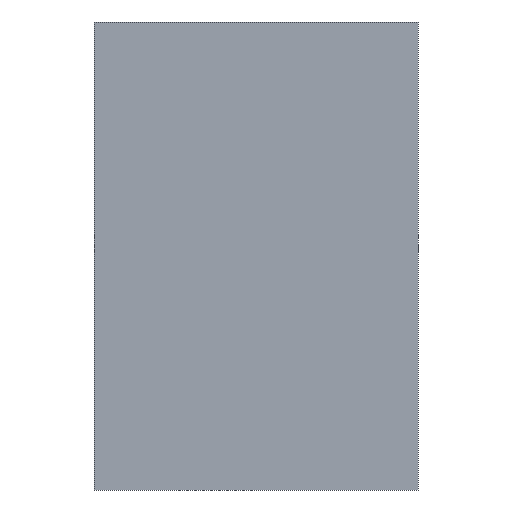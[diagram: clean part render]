
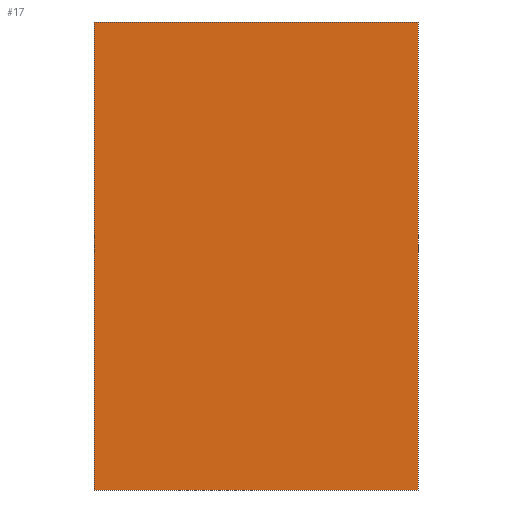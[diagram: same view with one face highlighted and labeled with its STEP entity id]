
A CAD part, left-side view. The second image highlights one B-rep face of the part: STEP entity #17.
In plain terms, the highlighted planar face has unit normal (-1, 0, 0).
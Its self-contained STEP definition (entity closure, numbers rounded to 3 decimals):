
#17 = ADVANCED_FACE('',(#18),#32,.F.);
#18 = FACE_BOUND('',#19,.F.);
#19 = EDGE_LOOP('',(#20,#55,#83,#111));
#20 = ORIENTED_EDGE('',*,*,#21,.F.);
#21 = EDGE_CURVE('',#22,#24,#26,.T.);
#22 = VERTEX_POINT('',#23);
#23 = CARTESIAN_POINT('',(2.,4.,-13.));
#24 = VERTEX_POINT('',#25);
#25 = CARTESIAN_POINT('',(2.,4.,13.));
#26 = SURFACE_CURVE('',#27,(#31,#43),.PCURVE_S1.);
#27 = LINE('',#28,#29);
#28 = CARTESIAN_POINT('',(2.,4.,-13.));
#29 = VECTOR('',#30,1.);
#30 = DIRECTION('',(0.,0.,1.));
#31 = PCURVE('',#32,#37);
#32 = PLANE('',#33);
#33 = AXIS2_PLACEMENT_3D('',#34,#35,#36);
#34 = CARTESIAN_POINT('',(2.,4.,-13.));
#35 = DIRECTION('',(1.,0.,0.));
#36 = DIRECTION('',(0.,0.,1.));
#37 = DEFINITIONAL_REPRESENTATION('',(#38),#42);
#38 = LINE('',#39,#40);
#39 = CARTESIAN_POINT('',(0.,0.));
#40 = VECTOR('',#41,1.);
#41 = DIRECTION('',(1.,0.));
#42 = ( GEOMETRIC_REPRESENTATION_CONTEXT(2) 
PARAMETRIC_REPRESENTATION_CONTEXT() REPRESENTATION_CONTEXT('2D SPACE',''
  ) );
#43 = PCURVE('',#44,#49);
#44 = PLANE('',#45);
#45 = AXIS2_PLACEMENT_3D('',#46,#47,#48);
#46 = CARTESIAN_POINT('',(2.,4.,-13.));
#47 = DIRECTION('',(0.,1.,0.));
#48 = DIRECTION('',(0.,0.,1.));
#49 = DEFINITIONAL_REPRESENTATION('',(#50),#54);
#50 = LINE('',#51,#52);
#51 = CARTESIAN_POINT('',(0.,0.));
#52 = VECTOR('',#53,1.);
#53 = DIRECTION('',(1.,0.));
#54 = ( GEOMETRIC_REPRESENTATION_CONTEXT(2) 
PARAMETRIC_REPRESENTATION_CONTEXT() REPRESENTATION_CONTEXT('2D SPACE',''
  ) );
#55 = ORIENTED_EDGE('',*,*,#56,.T.);
#56 = EDGE_CURVE('',#22,#57,#59,.T.);
#57 = VERTEX_POINT('',#58);
#58 = CARTESIAN_POINT('',(2.,22.,-13.));
#59 = SURFACE_CURVE('',#60,(#64,#71),.PCURVE_S1.);
#60 = LINE('',#61,#62);
#61 = CARTESIAN_POINT('',(2.,4.,-13.));
#62 = VECTOR('',#63,1.);
#63 = DIRECTION('',(0.,1.,0.));
#64 = PCURVE('',#32,#65);
#65 = DEFINITIONAL_REPRESENTATION('',(#66),#70);
#66 = LINE('',#67,#68);
#67 = CARTESIAN_POINT('',(0.,0.));
#68 = VECTOR('',#69,1.);
#69 = DIRECTION('',(0.,-1.));
#70 = ( GEOMETRIC_REPRESENTATION_CONTEXT(2) 
PARAMETRIC_REPRESENTATION_CONTEXT() REPRESENTATION_CONTEXT('2D SPACE',''
  ) );
#71 = PCURVE('',#72,#77);
#72 = PLANE('',#73);
#73 = AXIS2_PLACEMENT_3D('',#74,#75,#76);
#74 = CARTESIAN_POINT('',(2.,4.,-13.));
#75 = DIRECTION('',(0.,0.,1.));
#76 = DIRECTION('',(1.,0.,0.));
#77 = DEFINITIONAL_REPRESENTATION('',(#78),#82);
#78 = LINE('',#79,#80);
#79 = CARTESIAN_POINT('',(0.,0.));
#80 = VECTOR('',#81,1.);
#81 = DIRECTION('',(0.,1.));
#82 = ( GEOMETRIC_REPRESENTATION_CONTEXT(2) 
PARAMETRIC_REPRESENTATION_CONTEXT() REPRESENTATION_CONTEXT('2D SPACE',''
  ) );
#83 = ORIENTED_EDGE('',*,*,#84,.T.);
#84 = EDGE_CURVE('',#57,#85,#87,.T.);
#85 = VERTEX_POINT('',#86);
#86 = CARTESIAN_POINT('',(2.,22.,13.));
#87 = SURFACE_CURVE('',#88,(#92,#99),.PCURVE_S1.);
#88 = LINE('',#89,#90);
#89 = CARTESIAN_POINT('',(2.,22.,-13.));
#90 = VECTOR('',#91,1.);
#91 = DIRECTION('',(0.,0.,1.));
#92 = PCURVE('',#32,#93);
#93 = DEFINITIONAL_REPRESENTATION('',(#94),#98);
#94 = LINE('',#95,#96);
#95 = CARTESIAN_POINT('',(0.,-18.));
#96 = VECTOR('',#97,1.);
#97 = DIRECTION('',(1.,0.));
#98 = ( GEOMETRIC_REPRESENTATION_CONTEXT(2) 
PARAMETRIC_REPRESENTATION_CONTEXT() REPRESENTATION_CONTEXT('2D SPACE',''
  ) );
#99 = PCURVE('',#100,#105);
#100 = PLANE('',#101);
#101 = AXIS2_PLACEMENT_3D('',#102,#103,#104);
#102 = CARTESIAN_POINT('',(2.,22.,-13.));
#103 = DIRECTION('',(0.,1.,0.));
#104 = DIRECTION('',(0.,0.,1.));
#105 = DEFINITIONAL_REPRESENTATION('',(#106),#110);
#106 = LINE('',#107,#108);
#107 = CARTESIAN_POINT('',(0.,0.));
#108 = VECTOR('',#109,1.);
#109 = DIRECTION('',(1.,0.));
#110 = ( GEOMETRIC_REPRESENTATION_CONTEXT(2) 
PARAMETRIC_REPRESENTATION_CONTEXT() REPRESENTATION_CONTEXT('2D SPACE',''
  ) );
#111 = ORIENTED_EDGE('',*,*,#112,.F.);
#112 = EDGE_CURVE('',#24,#85,#113,.T.);
#113 = SURFACE_CURVE('',#114,(#118,#125),.PCURVE_S1.);
#114 = LINE('',#115,#116);
#115 = CARTESIAN_POINT('',(2.,4.,13.));
#116 = VECTOR('',#117,1.);
#117 = DIRECTION('',(0.,1.,0.));
#118 = PCURVE('',#32,#119);
#119 = DEFINITIONAL_REPRESENTATION('',(#120),#124);
#120 = LINE('',#121,#122);
#121 = CARTESIAN_POINT('',(26.,0.));
#122 = VECTOR('',#123,1.);
#123 = DIRECTION('',(0.,-1.));
#124 = ( GEOMETRIC_REPRESENTATION_CONTEXT(2) 
PARAMETRIC_REPRESENTATION_CONTEXT() REPRESENTATION_CONTEXT('2D SPACE',''
  ) );
#125 = PCURVE('',#126,#131);
#126 = PLANE('',#127);
#127 = AXIS2_PLACEMENT_3D('',#128,#129,#130);
#128 = CARTESIAN_POINT('',(2.,4.,13.));
#129 = DIRECTION('',(0.,0.,1.));
#130 = DIRECTION('',(1.,0.,0.));
#131 = DEFINITIONAL_REPRESENTATION('',(#132),#136);
#132 = LINE('',#133,#134);
#133 = CARTESIAN_POINT('',(0.,0.));
#134 = VECTOR('',#135,1.);
#135 = DIRECTION('',(0.,1.));
#136 = ( GEOMETRIC_REPRESENTATION_CONTEXT(2) 
PARAMETRIC_REPRESENTATION_CONTEXT() REPRESENTATION_CONTEXT('2D SPACE',''
  ) );
